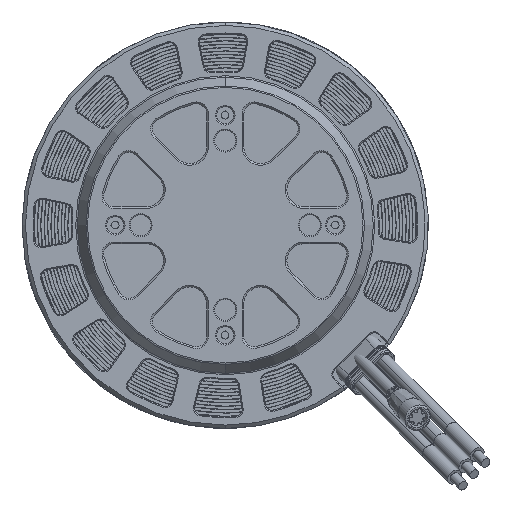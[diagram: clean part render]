
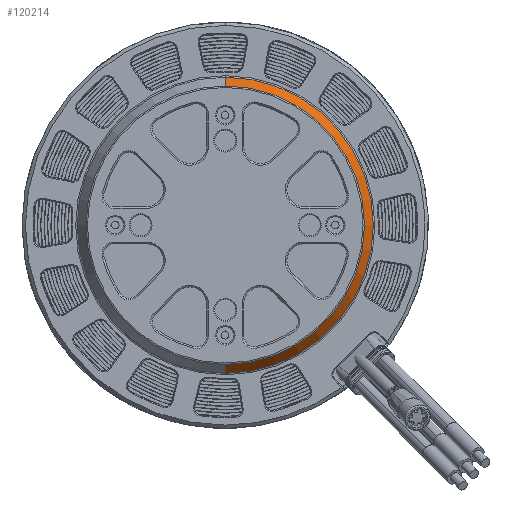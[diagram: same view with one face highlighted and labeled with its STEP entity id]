
A CAD part, front view. The second image highlights one B-rep face of the part: STEP entity #120214.
In plain terms, the highlighted conical face has half-angle 30 degrees and reference radius 41 mm.
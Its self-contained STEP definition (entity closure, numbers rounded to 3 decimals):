
#938 = VERTEX_POINT ( 'NONE', #104749 ) ;
#3454 = AXIS2_PLACEMENT_3D ( 'NONE', #103382, #129313, #154340 ) ;
#4971 = DIRECTION ( 'NONE',  ( 0., 0., -1. ) ) ;
#5820 = CARTESIAN_POINT ( 'NONE',  ( 0., -31., 0. ) ) ;
#8569 = LINE ( 'NONE', #61268, #70743 ) ;
#12436 = CARTESIAN_POINT ( 'NONE',  ( 0., -30.75, -41.144 ) ) ;
#14736 = ORIENTED_EDGE ( 'NONE', *, *, #147523, .T. ) ;
#27934 = ORIENTED_EDGE ( 'NONE', *, *, #155354, .F. ) ;
#35452 = ORIENTED_EDGE ( 'NONE', *, *, #92241, .T. ) ;
#61268 = CARTESIAN_POINT ( 'NONE',  ( 0., -31., 41. ) ) ;
#62258 = EDGE_LOOP ( 'NONE', ( #27934, #132652, #35452, #14736 ) ) ;
#70632 = DIRECTION ( 'NONE',  ( 0., 1., 0. ) ) ;
#70743 = VECTOR ( 'NONE', #166552, 1000. ) ;
#89383 = VERTEX_POINT ( 'NONE', #160981 ) ;
#92241 = EDGE_CURVE ( 'NONE', #104476, #89383, #110418, .T. ) ;
#94963 = EDGE_CURVE ( 'NONE', #938, #104476, #162609, .T. ) ;
#103382 = CARTESIAN_POINT ( 'NONE',  ( 0., -26.25, 0. ) ) ;
#104476 = VERTEX_POINT ( 'NONE', #12436 ) ;
#104749 = CARTESIAN_POINT ( 'NONE',  ( 0., -30.75, 41.144 ) ) ;
#107991 = CARTESIAN_POINT ( 'NONE',  ( 0., -30.75, 0. ) ) ;
#108946 = VERTEX_POINT ( 'NONE', #133283 ) ;
#110418 = LINE ( 'NONE', #162252, #156649 ) ;
#119971 = DIRECTION ( 'NONE',  ( 0., 0.866, -0.5 ) ) ;
#120214 = ADVANCED_FACE ( 'NONE', ( #164639 ), #125904, .T. ) ;
#123485 = DIRECTION ( 'NONE',  ( 0., 1., 0. ) ) ;
#125904 = CONICAL_SURFACE ( 'NONE', #139727, 41., 0.524 ) ;
#129313 = DIRECTION ( 'NONE',  ( 0., -1., 0. ) ) ;
#132652 = ORIENTED_EDGE ( 'NONE', *, *, #94963, .T. ) ;
#133283 = CARTESIAN_POINT ( 'NONE',  ( 0., -26.25, 43.742 ) ) ;
#139727 = AXIS2_PLACEMENT_3D ( 'NONE', #5820, #70632, #4971 ) ;
#147523 = EDGE_CURVE ( 'NONE', #89383, #108946, #149621, .T. ) ;
#149621 = CIRCLE ( 'NONE', #3454, 43.742 ) ;
#154311 = AXIS2_PLACEMENT_3D ( 'NONE', #107991, #123485, #163208 ) ;
#154340 = DIRECTION ( 'NONE',  ( 0., 0., -1. ) ) ;
#155354 = EDGE_CURVE ( 'NONE', #938, #108946, #8569, .T. ) ;
#156649 = VECTOR ( 'NONE', #119971, 1000. ) ;
#160981 = CARTESIAN_POINT ( 'NONE',  ( 0., -26.25, -43.742 ) ) ;
#162252 = CARTESIAN_POINT ( 'NONE',  ( 0., -31., -41. ) ) ;
#162609 = CIRCLE ( 'NONE', #154311, 41.144 ) ;
#163208 = DIRECTION ( 'NONE',  ( 0., 0., 1. ) ) ;
#164639 = FACE_OUTER_BOUND ( 'NONE', #62258, .T. ) ;
#166552 = DIRECTION ( 'NONE',  ( 0., 0.866, 0.5 ) ) ;
